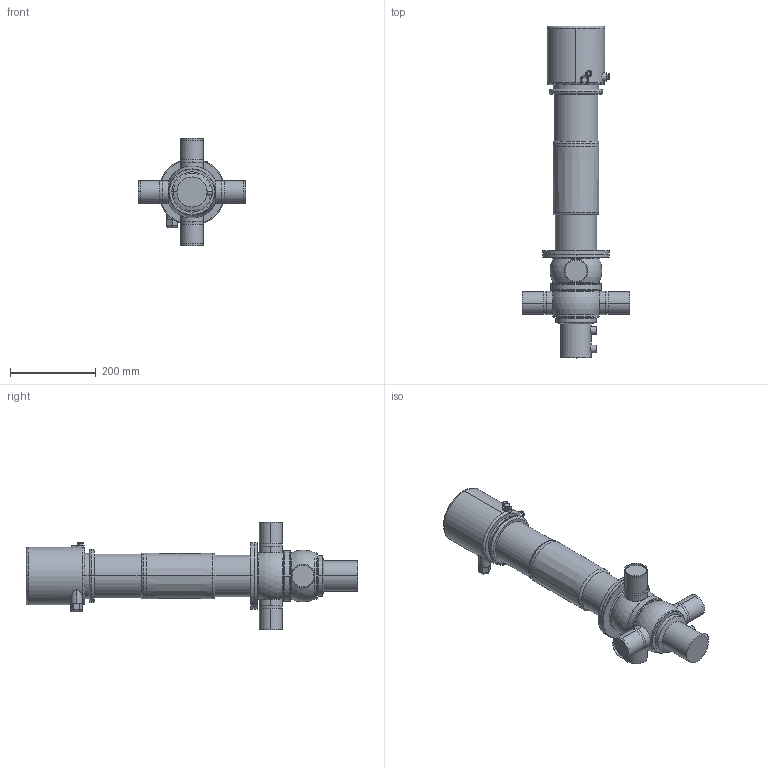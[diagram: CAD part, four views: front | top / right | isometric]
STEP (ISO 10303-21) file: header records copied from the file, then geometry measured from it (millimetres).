
FILE_DESCRIPTION(('Creo Elements/Direct Modeling STEP Export'),'2;1');
FILE_NAME('D44-50_CU4.stp','2019-09-03T14:55:42',(''),(''),'PTC Creo Elements/Direct Modeling STEP processor for AP214 (Solid Model)','PTC Creo Elements/Direct Modeling 19.0B 21-Mar-2015 (C) Parametric Technology GmbH','');
FILE_SCHEMA(('AUTOMOTIVE_DESIGN { 1 0 10303 214 1 1 1 1 }'));
Length unit declared in the file: millimetre
Products named in the file (5): CU41-D4; actuator_D4-100_yoke; drain_pipe-62; housing_D44-50; D44-50_CU4
Assembly tree (4 placements, depth 2):
  D44-50_CU4
    housing_D44-50
    drain_pipe-62
    actuator_D4-100_yoke
    CU41-D4
Bounding box: 250 x 772.7 x 250 mm (x, y, z)
Volume: 8005586.8 mm3; surface area: 453731.7 mm2
Topology: 4 solids, 4 shells, 262 faces, 611 edges, 385 vertices
Faces by surface type: cylinder 108, plane 63, torus 36, extrusion 33, cone 18, sphere 4
Entity records: 11298 total; most frequent: CARTESIAN_POINT 5696, ORIENTED_EDGE 1222, DIRECTION 1026, EDGE_CURVE 611, AXIS2_PLACEMENT_3D 403, VERTEX_POINT 385, EDGE_LOOP 290, FACE_OUTER_BOUND 262
